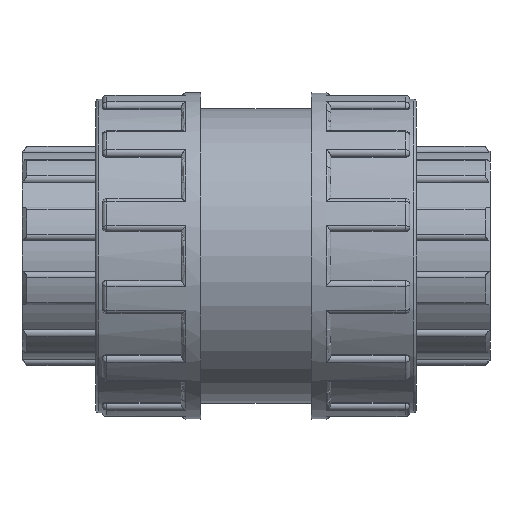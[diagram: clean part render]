
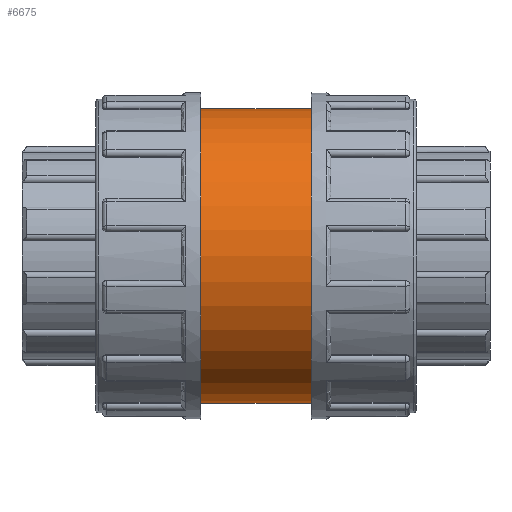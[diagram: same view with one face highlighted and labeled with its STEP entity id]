
A CAD part, front view. The second image highlights one B-rep face of the part: STEP entity #6675.
In plain terms, the highlighted cylindrical face has radius 53.1 mm (diameter 106.2 mm), a full revolution.
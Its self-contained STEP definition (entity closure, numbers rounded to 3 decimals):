
#185=FACE_BOUND('',#1099,.T.);
#186=FACE_BOUND('',#1100,.T.);
#670=FACE_OUTER_BOUND('',#1098,.T.);
#1098=EDGE_LOOP('',(#6073));
#1099=EDGE_LOOP('',(#6074));
#1100=EDGE_LOOP('',(#6075));
#1149=B_SPLINE_CURVE_WITH_KNOTS('',3,(#10735,#10736,#10737,#10738,#10739,
#10740,#10741,#10742,#10743,#10744,#10745,#10746,#10747,#10748,#10749,#10750,
#10751,#10752,#10753,#10754,#10755,#10756,#10757,#10758,#10759,#10760,#10761,
#10762,#10763,#10764,#10765,#10766,#10767,#10768,#10769,#10770,#10771,#10772,
#10773,#10774,#10775,#10776,#10777,#10778,#10779,#10780,#10781,#10782,#10783,
#10784,#10785,#10786,#10787,#10788,#10789,#10790,#10791,#10792,#10793,#10794,
#10795,#10796,#10797,#10798,#10799,#10800),.UNSPECIFIED.,.T.,.F.,(4,2,2,
2,2,2,2,2,2,2,2,2,2,2,2,2,2,2,2,2,2,2,2,2,2,2,2,2,2,2,2,2,4),(0.,0.336,
0.672,1.009,1.345,1.681,2.017,
2.353,2.689,3.025,3.362,3.698,
4.034,4.37,4.706,5.042,5.379,
5.715,6.051,6.387,6.724,7.06,
7.396,7.732,8.068,8.404,8.74,
9.076,9.412,9.749,10.085,10.421,
10.757),.UNSPECIFIED.);
#2472=CIRCLE('',#7578,53.1);
#2473=CIRCLE('',#7580,53.1);
#2638=VERTEX_POINT('',#10734);
#3083=VERTEX_POINT('',#13385);
#3084=VERTEX_POINT('',#13388);
#3349=EDGE_CURVE('',#2638,#2638,#1149,.T.);
#4082=EDGE_CURVE('',#3083,#3083,#2472,.T.);
#4083=EDGE_CURVE('',#3084,#3084,#2473,.T.);
#6073=ORIENTED_EDGE('',*,*,#4082,.T.);
#6074=ORIENTED_EDGE('',*,*,#3349,.T.);
#6075=ORIENTED_EDGE('',*,*,#4083,.F.);
#6267=CYLINDRICAL_SURFACE('',#7579,53.1);
#6675=ADVANCED_FACE('',(#670,#185,#186),#6267,.T.);
#7578=AXIS2_PLACEMENT_3D('',#13386,#9749,#9750);
#7579=AXIS2_PLACEMENT_3D('',#13387,#9751,#9752);
#7580=AXIS2_PLACEMENT_3D('',#13389,#9753,#9754);
#9749=DIRECTION('center_axis',(1.,0.,0.));
#9750=DIRECTION('ref_axis',(0.,0.,-1.));
#9751=DIRECTION('center_axis',(1.,0.,0.));
#9752=DIRECTION('ref_axis',(0.,1.,0.));
#9753=DIRECTION('center_axis',(1.,0.,0.));
#9754=DIRECTION('ref_axis',(0.,0.,-1.));
#10734=CARTESIAN_POINT('',(0.,50.063,-17.7));
#10735=CARTESIAN_POINT('Ctrl Pts',(0.,50.063,-17.7));
#10736=CARTESIAN_POINT('Ctrl Pts',(1.121,50.063,-17.7));
#10737=CARTESIAN_POINT('Ctrl Pts',(2.277,50.102,-17.592));
#10738=CARTESIAN_POINT('Ctrl Pts',(4.571,50.258,-17.14));
#10739=CARTESIAN_POINT('Ctrl Pts',(5.709,50.376,-16.796));
#10740=CARTESIAN_POINT('Ctrl Pts',(7.886,50.669,-15.89));
#10741=CARTESIAN_POINT('Ctrl Pts',(8.928,50.844,-15.327));
#10742=CARTESIAN_POINT('Ctrl Pts',(10.852,51.217,-14.031));
#10743=CARTESIAN_POINT('Ctrl Pts',(11.735,51.414,-13.297));
#10744=CARTESIAN_POINT('Ctrl Pts',(13.297,51.793,-11.735));
#10745=CARTESIAN_POINT('Ctrl Pts',(14.031,51.988,-10.853));
#10746=CARTESIAN_POINT('Ctrl Pts',(15.327,52.353,-8.928));
#10747=CARTESIAN_POINT('Ctrl Pts',(15.89,52.523,-7.886));
#10748=CARTESIAN_POINT('Ctrl Pts',(16.796,52.804,-5.708));
#10749=CARTESIAN_POINT('Ctrl Pts',(17.14,52.915,-4.57));
#10750=CARTESIAN_POINT('Ctrl Pts',(17.592,53.064,-2.276));
#10751=CARTESIAN_POINT('Ctrl Pts',(17.7,53.1,-1.12));
#10752=CARTESIAN_POINT('Ctrl Pts',(17.7,53.1,1.12));
#10753=CARTESIAN_POINT('Ctrl Pts',(17.592,53.064,2.276));
#10754=CARTESIAN_POINT('Ctrl Pts',(17.14,52.915,4.57));
#10755=CARTESIAN_POINT('Ctrl Pts',(16.796,52.804,5.708));
#10756=CARTESIAN_POINT('Ctrl Pts',(15.89,52.523,7.886));
#10757=CARTESIAN_POINT('Ctrl Pts',(15.327,52.353,8.928));
#10758=CARTESIAN_POINT('Ctrl Pts',(14.031,51.988,10.853));
#10759=CARTESIAN_POINT('Ctrl Pts',(13.297,51.793,11.735));
#10760=CARTESIAN_POINT('Ctrl Pts',(11.735,51.414,13.297));
#10761=CARTESIAN_POINT('Ctrl Pts',(10.852,51.217,14.031));
#10762=CARTESIAN_POINT('Ctrl Pts',(8.928,50.844,15.327));
#10763=CARTESIAN_POINT('Ctrl Pts',(7.886,50.669,15.89));
#10764=CARTESIAN_POINT('Ctrl Pts',(5.709,50.376,16.796));
#10765=CARTESIAN_POINT('Ctrl Pts',(4.571,50.258,17.14));
#10766=CARTESIAN_POINT('Ctrl Pts',(2.277,50.102,17.592));
#10767=CARTESIAN_POINT('Ctrl Pts',(1.121,50.063,17.7));
#10768=CARTESIAN_POINT('Ctrl Pts',(-1.121,50.063,17.7));
#10769=CARTESIAN_POINT('Ctrl Pts',(-2.277,50.102,17.592));
#10770=CARTESIAN_POINT('Ctrl Pts',(-4.571,50.258,17.14));
#10771=CARTESIAN_POINT('Ctrl Pts',(-5.709,50.376,16.796));
#10772=CARTESIAN_POINT('Ctrl Pts',(-7.886,50.669,15.89));
#10773=CARTESIAN_POINT('Ctrl Pts',(-8.928,50.844,15.327));
#10774=CARTESIAN_POINT('Ctrl Pts',(-10.852,51.217,14.031));
#10775=CARTESIAN_POINT('Ctrl Pts',(-11.735,51.414,13.297));
#10776=CARTESIAN_POINT('Ctrl Pts',(-13.297,51.793,11.735));
#10777=CARTESIAN_POINT('Ctrl Pts',(-14.031,51.988,10.853));
#10778=CARTESIAN_POINT('Ctrl Pts',(-15.327,52.353,8.928));
#10779=CARTESIAN_POINT('Ctrl Pts',(-15.89,52.523,7.886));
#10780=CARTESIAN_POINT('Ctrl Pts',(-16.796,52.804,5.708));
#10781=CARTESIAN_POINT('Ctrl Pts',(-17.14,52.915,4.57));
#10782=CARTESIAN_POINT('Ctrl Pts',(-17.592,53.064,2.276));
#10783=CARTESIAN_POINT('Ctrl Pts',(-17.7,53.1,1.12));
#10784=CARTESIAN_POINT('Ctrl Pts',(-17.7,53.1,-1.12));
#10785=CARTESIAN_POINT('Ctrl Pts',(-17.592,53.064,-2.276));
#10786=CARTESIAN_POINT('Ctrl Pts',(-17.14,52.915,-4.57));
#10787=CARTESIAN_POINT('Ctrl Pts',(-16.796,52.804,-5.708));
#10788=CARTESIAN_POINT('Ctrl Pts',(-15.89,52.523,-7.886));
#10789=CARTESIAN_POINT('Ctrl Pts',(-15.327,52.353,-8.928));
#10790=CARTESIAN_POINT('Ctrl Pts',(-14.031,51.988,-10.853));
#10791=CARTESIAN_POINT('Ctrl Pts',(-13.297,51.793,-11.735));
#10792=CARTESIAN_POINT('Ctrl Pts',(-11.735,51.414,-13.297));
#10793=CARTESIAN_POINT('Ctrl Pts',(-10.852,51.217,-14.031));
#10794=CARTESIAN_POINT('Ctrl Pts',(-8.928,50.844,-15.327));
#10795=CARTESIAN_POINT('Ctrl Pts',(-7.886,50.669,-15.89));
#10796=CARTESIAN_POINT('Ctrl Pts',(-5.709,50.376,-16.796));
#10797=CARTESIAN_POINT('Ctrl Pts',(-4.571,50.258,-17.14));
#10798=CARTESIAN_POINT('Ctrl Pts',(-2.277,50.102,-17.592));
#10799=CARTESIAN_POINT('Ctrl Pts',(-1.121,50.063,-17.7));
#10800=CARTESIAN_POINT('Ctrl Pts',(0.,50.063,
-17.7));
#13385=CARTESIAN_POINT('',(-19.9,53.1,0.));
#13386=CARTESIAN_POINT('Origin',(-19.9,0.,0.));
#13387=CARTESIAN_POINT('Origin',(0.,0.,0.));
#13388=CARTESIAN_POINT('',(19.9,53.1,0.));
#13389=CARTESIAN_POINT('Origin',(19.9,0.,0.));
